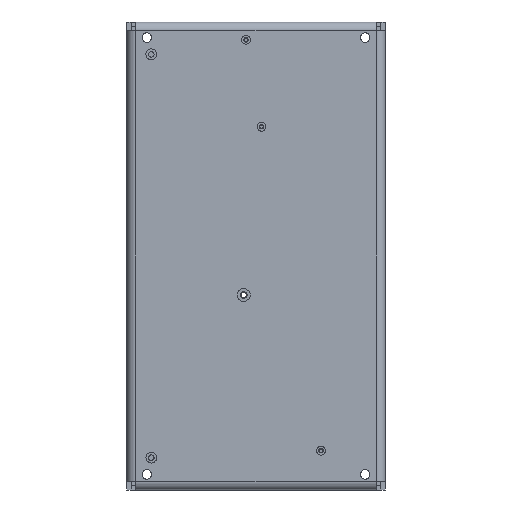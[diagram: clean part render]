
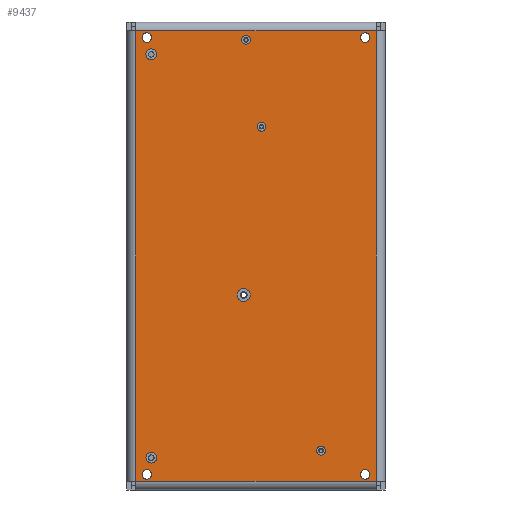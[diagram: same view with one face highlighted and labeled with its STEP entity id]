
A CAD part, front view. The second image highlights one B-rep face of the part: STEP entity #9437.
In plain terms, the highlighted planar face has unit normal (0, -1, 0).
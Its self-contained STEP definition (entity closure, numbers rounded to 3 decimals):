
#9437=ADVANCED_FACE('',(#23049,#23051,#23053,#23055,#23057,#23059,#23061,#23063,
#23065,#23067,#23069),#23071,.T.);
#23049=FACE_BOUND('',#23050,.T.);
#23050=EDGE_LOOP('',(#33956,#33957,#33958,#33959));
#23051=FACE_BOUND('',#23052,.T.);
#23052=EDGE_LOOP('',(#33960));
#23053=FACE_BOUND('',#23054,.T.);
#23054=EDGE_LOOP('',(#33961));
#23055=FACE_BOUND('',#23056,.T.);
#23056=EDGE_LOOP('',(#33962));
#23057=FACE_BOUND('',#23058,.T.);
#23058=EDGE_LOOP('',(#33963));
#23059=FACE_BOUND('',#23060,.T.);
#23060=EDGE_LOOP('',(#33964));
#23061=FACE_BOUND('',#23062,.T.);
#23062=EDGE_LOOP('',(#33965));
#23063=FACE_BOUND('',#23064,.T.);
#23064=EDGE_LOOP('',(#33966));
#23065=FACE_BOUND('',#23066,.T.);
#23066=EDGE_LOOP('',(#33967));
#23067=FACE_BOUND('',#23068,.T.);
#23068=EDGE_LOOP('',(#33968));
#23069=FACE_BOUND('',#23070,.T.);
#23070=EDGE_LOOP('',(#33969));
#23071=PLANE('',#23072);
#23072=AXIS2_PLACEMENT_3D('',#23073,#23074,#23075);
#23073=CARTESIAN_POINT('',(-58.,0.,-105.));
#23074=DIRECTION('',(0.,-1.,0.));
#23075=DIRECTION('',(0.,0.,-1.));
#33956=ORIENTED_EDGE('',*,*,#38880,.T.);
#33957=ORIENTED_EDGE('',*,*,#39121,.T.);
#33958=ORIENTED_EDGE('',*,*,#39296,.T.);
#33959=ORIENTED_EDGE('',*,*,#39123,.T.);
#33960=ORIENTED_EDGE('',*,*,#39297,.F.);
#33961=ORIENTED_EDGE('',*,*,#39298,.F.);
#33962=ORIENTED_EDGE('',*,*,#39299,.F.);
#33963=ORIENTED_EDGE('',*,*,#39300,.T.);
#33964=ORIENTED_EDGE('',*,*,#39301,.T.);
#33965=ORIENTED_EDGE('',*,*,#39302,.T.);
#33966=ORIENTED_EDGE('',*,*,#39303,.T.);
#33967=ORIENTED_EDGE('',*,*,#39304,.F.);
#33968=ORIENTED_EDGE('',*,*,#39305,.F.);
#33969=ORIENTED_EDGE('',*,*,#39306,.F.);
#38880=EDGE_CURVE('',#43507,#43510,#44674,.T.);
#39121=EDGE_CURVE('',#43510,#44650,#45010,.T.);
#39123=EDGE_CURVE('',#44653,#43507,#45012,.T.);
#39296=EDGE_CURVE('',#44650,#44653,#45286,.T.);
#39297=EDGE_CURVE('',#45287,#45287,#45288,.T.);
#39298=EDGE_CURVE('',#45289,#45289,#45290,.T.);
#39299=EDGE_CURVE('',#45291,#45291,#45292,.F.);
#39300=EDGE_CURVE('',#45293,#45293,#45294,.T.);
#39301=EDGE_CURVE('',#45295,#45295,#45296,.T.);
#39302=EDGE_CURVE('',#45297,#45297,#45298,.T.);
#39303=EDGE_CURVE('',#45299,#45299,#45300,.T.);
#39304=EDGE_CURVE('',#45301,#45301,#45302,.F.);
#39305=EDGE_CURVE('',#45303,#45303,#45304,.F.);
#39306=EDGE_CURVE('',#45305,#45305,#45306,.T.);
#43507=VERTEX_POINT('',#55315);
#43510=VERTEX_POINT('',#55323);
#44650=VERTEX_POINT('',#58112);
#44653=VERTEX_POINT('',#58120);
#44674=LINE('',#58476,#58477);
#45010=LINE('',#64768,#64769);
#45012=LINE('',#64775,#64776);
#45286=LINE('',#65475,#65476);
#45287=VERTEX_POINT('',#65478);
#45288=CIRCLE('',#65479,1.98);
#45289=VERTEX_POINT('',#65483);
#45290=CIRCLE('',#65484,1.98);
#45291=VERTEX_POINT('',#65488);
#45292=CIRCLE('',#65489,2.4);
#45293=VERTEX_POINT('',#65493);
#45294=CIRCLE('',#65494,2.15);
#45295=VERTEX_POINT('',#65498);
#45296=CIRCLE('',#65499,2.15);
#45297=VERTEX_POINT('',#65503);
#45298=CIRCLE('',#65504,2.15);
#45299=VERTEX_POINT('',#65508);
#45300=CIRCLE('',#65509,2.15);
#45301=VERTEX_POINT('',#65513);
#45302=CIRCLE('',#65514,2.903);
#45303=VERTEX_POINT('',#65518);
#45304=CIRCLE('',#65519,2.4);
#45305=VERTEX_POINT('',#65523);
#45306=CIRCLE('',#65524,1.98);
#55315=CARTESIAN_POINT('',(-54.,0.,101.));
#55323=CARTESIAN_POINT('',(-54.,0.,-101.));
#58112=CARTESIAN_POINT('',(54.,0.,-101.));
#58120=CARTESIAN_POINT('',(54.,0.,101.));
#58476=CARTESIAN_POINT('',(-54.,0.,101.));
#58477=VECTOR('',#58478,1.);
#58478=DIRECTION('',(0.,0.,-1.));
#64768=CARTESIAN_POINT('',(-54.,0.,-101.));
#64769=VECTOR('',#64770,1.);
#64770=DIRECTION('',(1.,0.,0.));
#64775=CARTESIAN_POINT('',(54.,0.,101.));
#64776=VECTOR('',#64777,1.);
#64777=DIRECTION('',(-1.,0.,0.));
#65475=CARTESIAN_POINT('',(54.,0.,-101.));
#65476=VECTOR('',#65477,1.);
#65477=DIRECTION('',(0.,0.,1.));
#65478=CARTESIAN_POINT('',(31.105,0.,-87.375));
#65479=AXIS2_PLACEMENT_3D('',#65480,#65481,#65482);
#65480=CARTESIAN_POINT('',(29.125,0.,-87.375));
#65481=DIRECTION('',(0.,-1.,0.));
#65482=DIRECTION('',(1.,0.,0.));
#65483=CARTESIAN_POINT('',(-2.52,0.,97.));
#65484=AXIS2_PLACEMENT_3D('',#65485,#65486,#65487);
#65485=CARTESIAN_POINT('',(-4.5,0.,97.));
#65486=DIRECTION('',(0.,-1.,0.));
#65487=DIRECTION('',(1.,0.,0.));
#65488=CARTESIAN_POINT('',(-45.687,0.,-92.509));
#65489=AXIS2_PLACEMENT_3D('',#65490,#65491,#65492);
#65490=CARTESIAN_POINT('',(-47.,0.,-90.5));
#65491=DIRECTION('',(-0.,1.,-0.));
#65492=DIRECTION('',(0.547,0.,-0.837));
#65493=CARTESIAN_POINT('',(49.,0.,-95.85));
#65494=AXIS2_PLACEMENT_3D('',#65495,#65496,#65497);
#65495=CARTESIAN_POINT('',(49.,0.,-98.));
#65496=DIRECTION('',(-0.,1.,-0.));
#65497=DIRECTION('',(0.,0.,-1.));
#65498=CARTESIAN_POINT('',(-49.,0.,-95.85));
#65499=AXIS2_PLACEMENT_3D('',#65500,#65501,#65502);
#65500=CARTESIAN_POINT('',(-49.,0.,-98.));
#65501=DIRECTION('',(-0.,1.,-0.));
#65502=DIRECTION('',(0.,0.,-1.));
#65503=CARTESIAN_POINT('',(-49.,0.,100.15));
#65504=AXIS2_PLACEMENT_3D('',#65505,#65506,#65507);
#65505=CARTESIAN_POINT('',(-49.,0.,98.));
#65506=DIRECTION('',(-0.,1.,-0.));
#65507=DIRECTION('',(0.,0.,-1.));
#65508=CARTESIAN_POINT('',(49.,0.,100.15));
#65509=AXIS2_PLACEMENT_3D('',#65510,#65511,#65512);
#65510=CARTESIAN_POINT('',(49.,0.,98.));
#65511=DIRECTION('',(-0.,1.,-0.));
#65512=DIRECTION('',(0.,0.,-1.));
#65513=CARTESIAN_POINT('',(-5.5,0.,-20.403));
#65514=AXIS2_PLACEMENT_3D('',#65515,#65516,#65517);
#65515=CARTESIAN_POINT('',(-5.5,0.,-17.5));
#65516=DIRECTION('',(-0.,1.,-0.));
#65517=DIRECTION('',(0.,0.,-1.));
#65518=CARTESIAN_POINT('',(-49.329,0.,89.92));
#65519=AXIS2_PLACEMENT_3D('',#65520,#65521,#65522);
#65520=CARTESIAN_POINT('',(-47.,0.,90.5));
#65521=DIRECTION('',(-0.,1.,-0.));
#65522=DIRECTION('',(-0.97,0.,-0.241));
#65523=CARTESIAN_POINT('',(4.48,0.,58.));
#65524=AXIS2_PLACEMENT_3D('',#65525,#65526,#65527);
#65525=CARTESIAN_POINT('',(2.5,0.,58.));
#65526=DIRECTION('',(0.,-1.,0.));
#65527=DIRECTION('',(1.,0.,0.));
